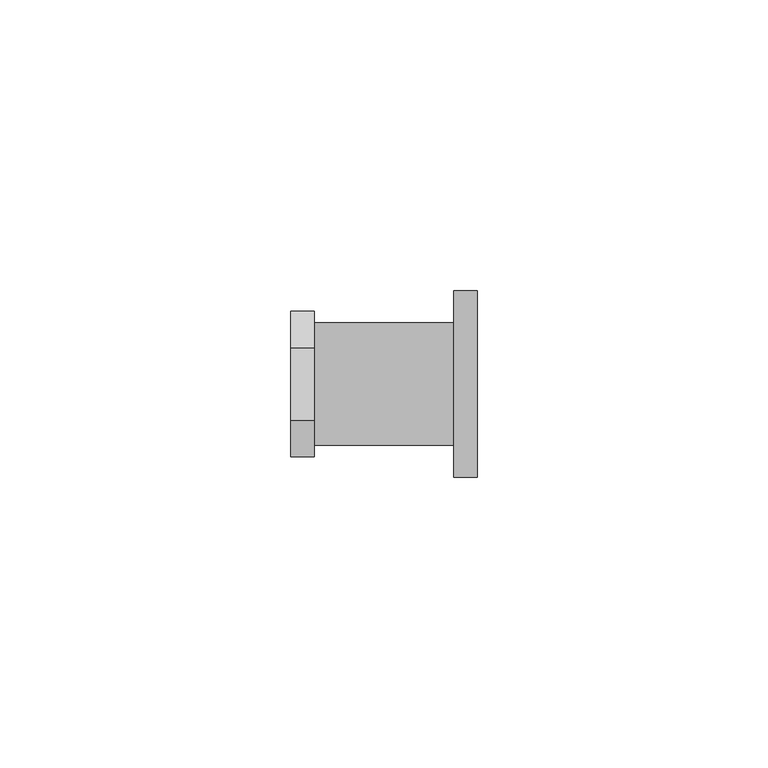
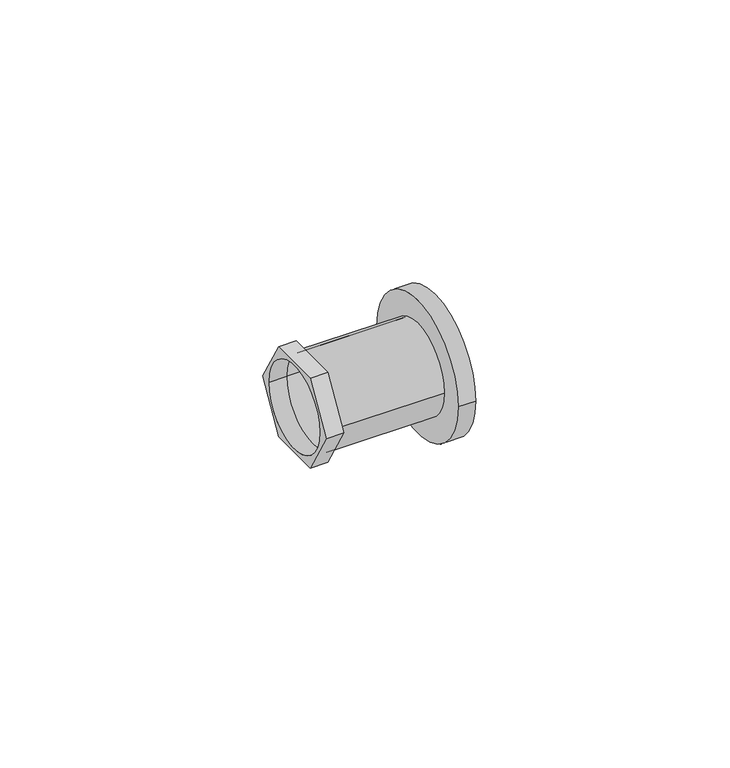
"""IFC4 building model written with IfcOpenShell, lengths in millimetres: pipe fitting geometry, БИР ПЕКС_НПР_Соединитель_Гайка накидная : Соединитель прямой с накидной гайкой."""

from ifc_helpers import new_model, si_unit, point, frame, origin, origin_2d, place, context, project, spatial, polyline, circle_curve, trimmed, segment, composite_curve, outline, extrude, source, transform, mapped, element, save


def pipe_fitting_24489899(model_context):
    return source(origin(), model_context, "Body", "SweptSolid", [
        extrude(outline(polyline([(-6.25, -10.8253175), (-12.5, 0.0), (-6.25, 10.8253175), (6.25, 10.8253175), (12.5, 0.0), (6.25, -10.8253175), (-6.25, -10.8253175)]), holes=[composite_curve([segment(trimmed(circle_curve(origin_2d(), 10.0), [point((-10.0, 0.0))], [point((10.0, 0.0))], True, "CARTESIAN"), True, "CONTINUOUS"), segment(trimmed(circle_curve(origin_2d(), 10.0), [point((10.0, 0.0))], [point((-10.0, 0.0))], True, "CARTESIAN"), True, "CONTINUOUS")], self_intersect=False)]), frame((-16.0, 0.0, 0.0), z_axis=(1.0, 0.0, 0.0), x_axis=(0.0, 1.0, 0.0)), (0.0, 0.0, 1.0), 4.0),
        extrude(outline(composite_curve([segment(trimmed(circle_curve(origin_2d(), 10.5), [point((-10.5, 0.0))], [point((10.5, 0.0))], False, "CARTESIAN"), True, "CONTINUOUS"), segment(trimmed(circle_curve(origin_2d(), 10.5), [point((10.5, 0.0))], [point((-10.5, 0.0))], False, "CARTESIAN"), True, "CONTINUOUS")], self_intersect=False), holes=[composite_curve([segment(trimmed(circle_curve(origin_2d(), 10.0), [point((-10.0, 0.0))], [point((10.0, 0.0))], True, "CARTESIAN"), True, "CONTINUOUS"), segment(trimmed(circle_curve(origin_2d(), 10.0), [point((10.0, 0.0))], [point((-10.0, 0.0))], True, "CARTESIAN"), True, "CONTINUOUS")], self_intersect=False)]), frame((-12.0, 0.0, 0.0), z_axis=(1.0, 0.0, 0.0), x_axis=(0.0, 1.0, 0.0)), (0.0, 0.0, 1.0), 24.0),
        extrude(outline(composite_curve([segment(trimmed(circle_curve(origin_2d(), 16.0), [point((-16.0, 0.0))], [point((16.0, 0.0))], False, "CARTESIAN"), True, "CONTINUOUS"), segment(trimmed(circle_curve(origin_2d(), 16.0), [point((16.0, 0.0))], [point((-16.0, 0.0))], False, "CARTESIAN"), True, "CONTINUOUS")], self_intersect=False), holes=[composite_curve([segment(trimmed(circle_curve(origin_2d(), 10.0), [point((-10.0, 0.0))], [point((10.0, 0.0))], True, "CARTESIAN"), True, "CONTINUOUS"), segment(trimmed(circle_curve(origin_2d(), 10.0), [point((10.0, 0.0))], [point((-10.0, 0.0))], True, "CARTESIAN"), True, "CONTINUOUS")], self_intersect=False)]), frame((12.0, 0.0, 0.0), z_axis=(1.0, 0.0, 0.0), x_axis=(0.0, 1.0, 0.0)), (0.0, 0.0, 1.0), 4.0),
    ])


if __name__ == "__main__":
    model = new_model("IFC4")
    model_context = context("Model", 3, world=origin())
    ifc_project = project(units=[si_unit("LENGTHUNIT", "METRE", prefix="MILLI")], contexts=[model_context])
    site = spatial("IfcSite", under=ifc_project)
    building = spatial("IfcBuilding", under=site)
    placement = place(None, origin())
    pipe_fitting_shape = pipe_fitting_24489899(model_context)
    element("IfcPipeFitting", 1, ObjectType="БИР ПЕКС_НПР_Соединитель_Гайка накидная : Соединитель прямой с накидной гайкой", at=placement, inside=building, context=model_context, shape_type="MappedRepresentation", body=[
        mapped(pipe_fitting_shape, transform((0.0, 0.0, 0.0), x_axis=(1.0, 0.0, 0.0), y_axis=(0.0, 1.0, 0.0), z_axis=(0.0, 0.0, 1.0))),
    ])
    save(model, "model.ifc")
